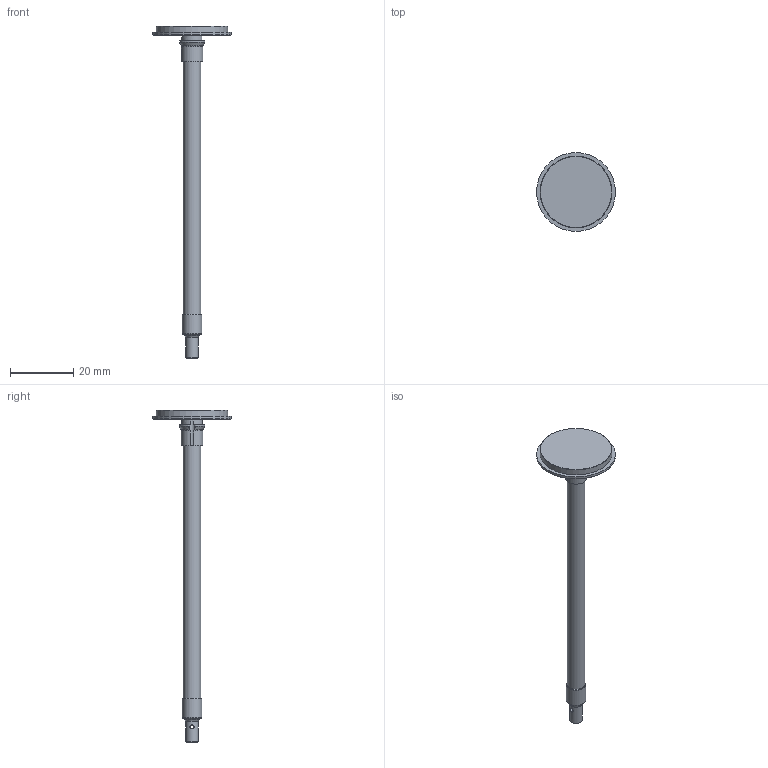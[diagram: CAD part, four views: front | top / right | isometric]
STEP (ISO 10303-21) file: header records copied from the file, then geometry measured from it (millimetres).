
FILE_DESCRIPTION(/* description */ (''),/* implementation_level */ '2;1');
FILE_NAME(/* name */ 'LA-2237-0895#-C.stp',/* time_stamp */ '2012-09-07T08:55:21+01:00',/* author */ (''),/* organization */ (''),/* preprocessor_version */ 'ST-DEVELOPER v11',/* originating_system */ 'SIEMENS PLM Software NX 7.5',/* authorisation */ '');
FILE_SCHEMA (('AUTOMOTIVE_DESIGN { 1 0 10303 214 1 1 1 1 }'));
Length unit declared in the file: millimetre
Products named in the file (1): rt13371Ayuv8
Bounding box: 25 x 25 x 105.15 mm (x, y, z)
Volume: 3555.8 mm3; surface area: 3045.4 mm2
Topology: 1 solids, 1 shells, 46 faces, 180 edges, 148 vertices
Faces by surface type: plane 17, cylinder 14, cone 11, torus 4
Full cylindrical faces by diameter (mm): 1.31 x2, 2.6 x1, 4 x1, 5.475 x1, 6.168 x1, 6.6 x1, 22.7 x1, 25 x1
Entity records: 2459 total; most frequent: CARTESIAN_POINT 763, ORIENTED_EDGE 296, DIRECTION 221, EDGE_CURVE 148, VERTEX_POINT 139, AXIS2_PLACEMENT_3D 85, EDGE_LOOP 84, FACE_BOUND 67
